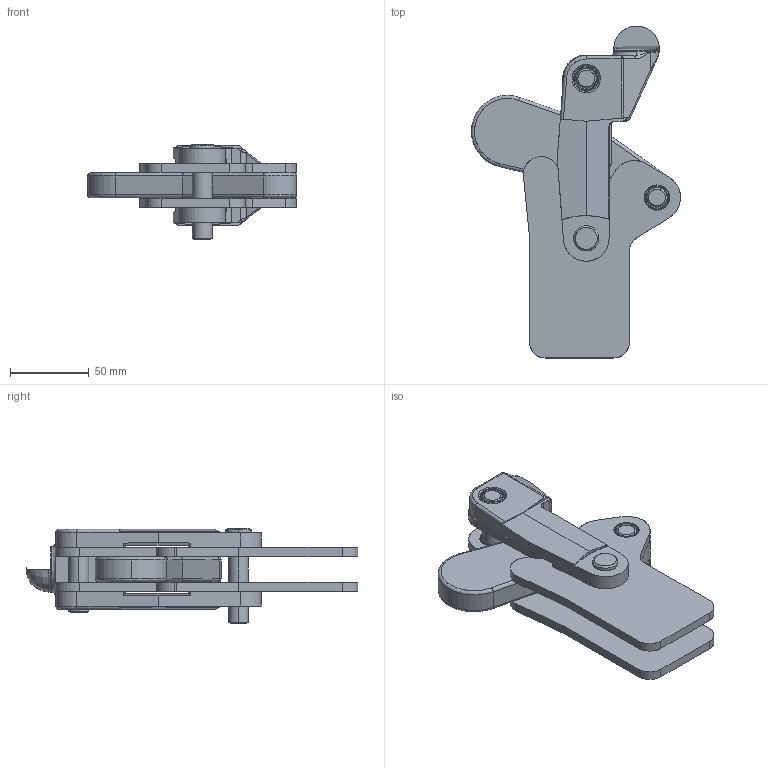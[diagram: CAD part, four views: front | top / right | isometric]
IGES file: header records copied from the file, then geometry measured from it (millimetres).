
Start section: SolidWorks IGES file using analytic representation for surfaces
Global section: file name: D:\GH Files\GH-SW-FILES\GH7\70605,70610,70615\70615.IGS; native system: SolidWorks 2006 by SolidWorks Corporation; preprocessor: SolidWorks 2006 by SolidWorks Corporation; author: Administrator; date: 060705.123200; units: millimetre
Bounding box: 133 x 211.09 x 61 mm (x, y, z)
Surface area: 107177.8 mm2 (no closed solid volume)
Topology: 0 solids, 0 shells, 1326 faces, 9111 edges, 9108 vertices
Faces by surface type: bspline 878, revolution 448
